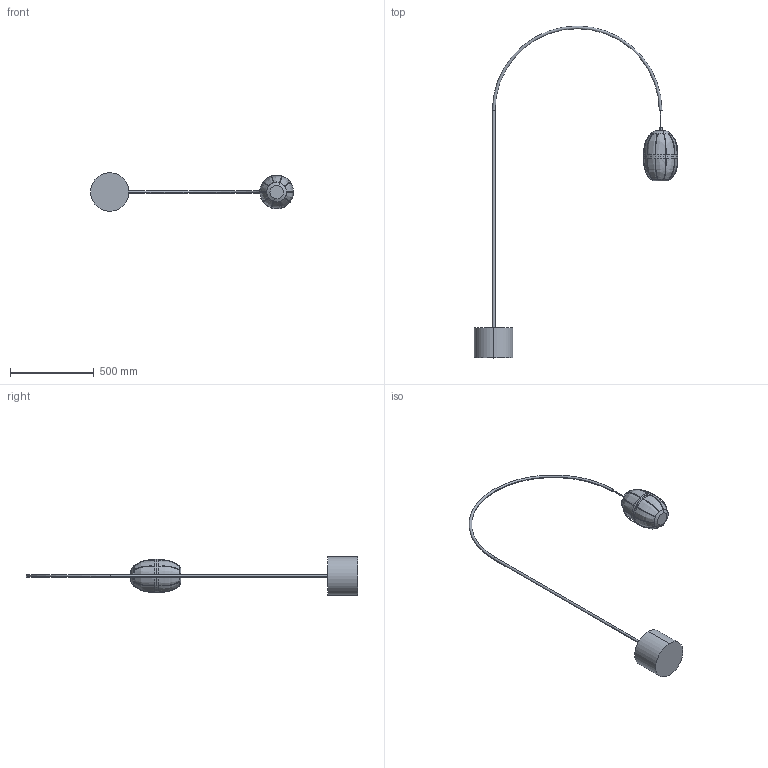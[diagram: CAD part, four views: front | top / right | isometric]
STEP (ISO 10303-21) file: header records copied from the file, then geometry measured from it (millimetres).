
FILE_DESCRIPTION (( 'STEP AP214' ), '1' );
FILE_NAME ('PULL_P1249.STEP', '2024-12-17T09:01:09', ( '' ), ( '' ), 'SwSTEP 2.0', 'SolidWorks 2018', '' );
FILE_SCHEMA (( 'AUTOMOTIVE_DESIGN' ));
Length unit declared in the file: millimetre
Products named in the file (3): tulipa; PULL_P1249; CUERPO PIE
Assembly tree (2 placements, depth 2):
  PULL_P1249
    CUERPO PIE
    tulipa
Bounding box: 1215.95 x 1988 x 230 mm (x, y, z)
Volume: 11917129.3 mm3; surface area: 806162 mm2
Topology: 30 solids, 30 shells, 174 faces, 332 edges, 220 vertices
Faces by surface type: plane 62, cylinder 58, bspline 46, torus 6, cone 2
Entity records: 14000 total; most frequent: CARTESIAN_POINT 10373, ORIENTED_EDGE 664, DIRECTION 610, EDGE_CURVE 332, AXIS2_PLACEMENT_3D 275, VERTEX_POINT 220, EDGE_LOOP 180, FACE_OUTER_BOUND 174
